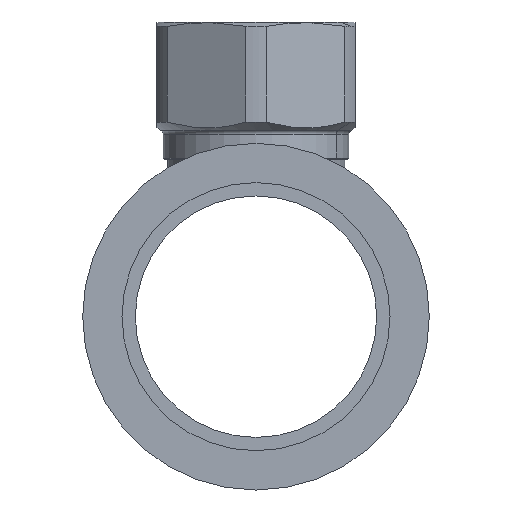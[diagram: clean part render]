
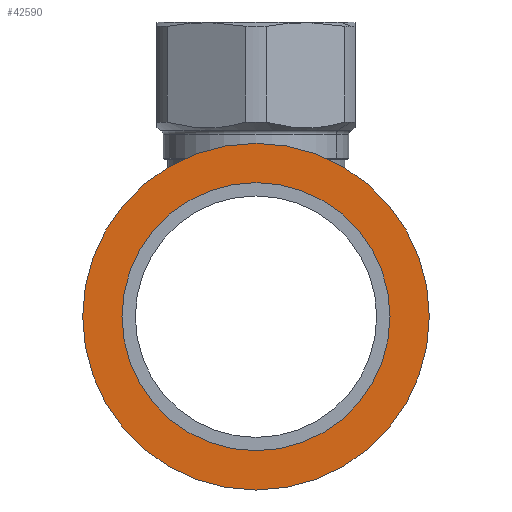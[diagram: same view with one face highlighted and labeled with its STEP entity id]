
A CAD part, left-side view. The second image highlights one B-rep face of the part: STEP entity #42590.
In plain terms, the highlighted planar face has unit normal (-1, 0, 0) as drawn and (0.5, 0.866, 0) by its records, which use the part's own axes.
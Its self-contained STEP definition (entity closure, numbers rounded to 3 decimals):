
#3720=CARTESIAN_POINT('',(88.404,117.112,81.024));
#3730=VERTEX_POINT('',#3720);
#3910=CARTESIAN_POINT('',(88.404,117.112,25.024));
#3920=VERTEX_POINT('',#3910);
#3950=CARTESIAN_POINT('',(88.404,117.112,53.024));
#3960=DIRECTION('',(-0.5,-0.866,0.));
#3970=DIRECTION('',(0.,0.,-1.));
#3980=AXIS2_PLACEMENT_3D('',#3950,#3960,#3970);
#3990=CIRCLE('',#3980,28.);
#4000=EDGE_CURVE('',#3730,#3920,#3990,.T.);
#42210=CARTESIAN_POINT('',(88.404,117.112,74.674));
#42220=VERTEX_POINT('',#42210);
#42250=CARTESIAN_POINT('',(88.404,117.112,53.024));
#42260=DIRECTION('',(-0.5,-0.866,0.));
#42270=DIRECTION('',(0.,0.,-1.));
#42280=AXIS2_PLACEMENT_3D('',#42250,#42260,#42270);
#42290=CIRCLE('',#42280,21.65);
#42300=CARTESIAN_POINT('',(88.404,117.112,31.374));
#42310=VERTEX_POINT('',#42300);
#42320=EDGE_CURVE('',#42220,#42310,#42290,.T.);
#42440=CARTESIAN_POINT('',(88.404,117.112,26.599));
#42450=DIRECTION('',(0.5,0.866,0.));
#42460=DIRECTION('',(0.,0.,-1.));
#42470=AXIS2_PLACEMENT_3D('',#42440,#42450,#42460);
#42480=PLANE('',#42470);
#42490=EDGE_CURVE('',#42310,#42220,#42290,.T.);
#42500=ORIENTED_EDGE('',*,*,#42490,.T.);
#42510=ORIENTED_EDGE('',*,*,#42320,.T.);
#42520=EDGE_LOOP('',(#42510,#42500));
#42530=FACE_BOUND('',#42520,.T.);
#42540=EDGE_CURVE('',#3920,#3730,#3990,.T.);
#42550=ORIENTED_EDGE('',*,*,#42540,.F.);
#42560=ORIENTED_EDGE('',*,*,#4000,.F.);
#42570=EDGE_LOOP('',(#42560,#42550));
#42580=FACE_OUTER_BOUND('',#42570,.T.);
#42590=ADVANCED_FACE('',(#42530,#42580),#42480,.T.);
